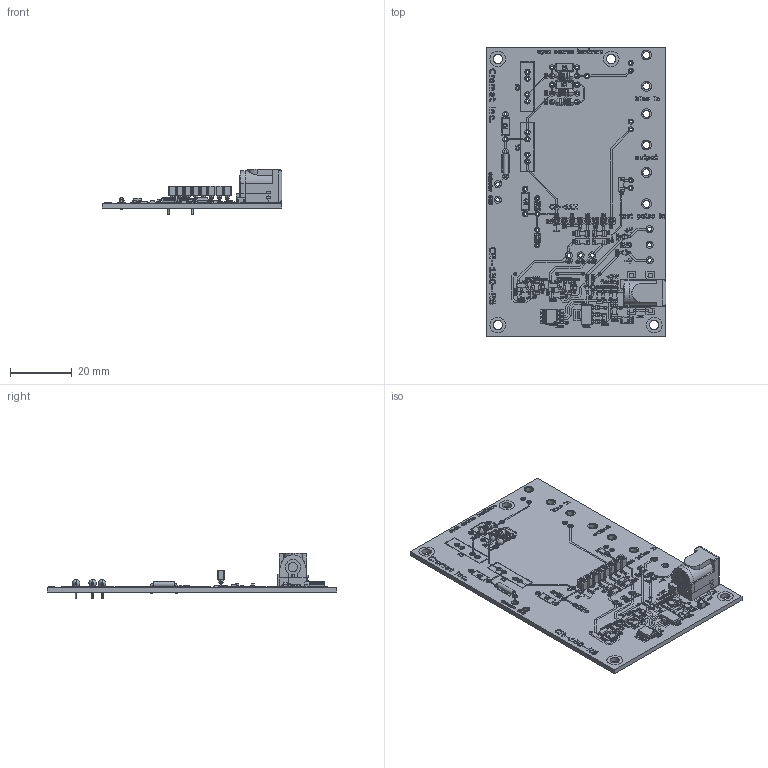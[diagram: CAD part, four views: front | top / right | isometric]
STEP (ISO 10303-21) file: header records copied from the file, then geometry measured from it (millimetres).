
FILE_DESCRIPTION(('FreeCAD Model'),'2;1');
FILE_NAME('Open CASCADE Shape Model','2022-10-15T08:47:23',('Author'),( ''),'Open CASCADE STEP processor 7.5','FreeCAD','Unknown');
FILE_SCHEMA(('AUTOMOTIVE_DESIGN { 1 0 10303 214 1 1 1 1 }'));
Length unit declared in the file: millimetre
Products named in the file (28): CR_150_R6; CR-150-R6; Board_Geoms_2100; Pcb_2100; topPads_2100; topTracks_2100; botPads_2100; botTracks_2100; botZones_2100; topSilks_dadc; Step_Models_2100; Top_2100; D102; U1; U102; R102; R101; C102; J101; R8; U101; L101; Q101; R11(wirebridge-ferrite); wirebridge; ferrite; Local_CS_2100; PCB_Sketch_2100
Assembly tree (91 placements, depth 6):
  CR_150_R6
    CR-150-R6
      Board_Geoms_2100
        Pcb_2100
        topPads_2100
        topTracks_2100
        botPads_2100
        botTracks_2100
        botZones_2100
        topSilks_dadc
      Step_Models_2100
        Top_2100
          D102  x6
          U1
          U102
          R102  x3
          R101  x7
          C102  x6
          J101
          R8  x3
          U101
          L101
          Q101  x2
          R11(wirebridge-ferrite)
            wirebridge
            ferrite
    Board_Geoms_2100
      Pcb_2100
      topPads_2100
      topTracks_2100
      botPads_2100
      botTracks_2100
      botZones_2100
      topSilks_dadc
    Step_Models_2100
      Top_2100
        D102  x6
        U1
        U102
        R102  x3
        R101  x7
        C102  x6
        J101
        R8  x3
        U101
        L101
        Q101  x2
        R11(wirebridge-ferrite)
          wirebridge
          ferrite
    Local_CS_2100
    Pcb_2100
    PCB_Sketch_2100
    topPads_2100
    topTracks_2100
    botPads_2100
    botTracks_2100
    botZones_2100
    topSilks_dadc
    Top_2100
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Bounding box: 58.42 x 93.98 x 14.73 mm (x, y, z)
Volume: 32303.5 mm3; surface area: 60635.5 mm2
Topology: 207 solids, 1794 shells, 9654 faces, 100462 edges, 113165 vertices
Faces by surface type: plane 4949, bspline 2864, cylinder 1721, sphere 64, torus 56
Full cylindrical faces by diameter (mm): 0.6 x12, 0.889 x30, 0.914 x51, 0.965 x24, 1.27 x24, 1.6 x7, 1.803 x3, 2.286 x18, 3.048 x12
Entity records: 273830 total; most frequent: CARTESIAN_POINT 71746, DIRECTION 32319, ORIENTED_EDGE 30298, EDGE_CURVE 27440, VERTEX_POINT 26371, LINE 26091, VECTOR 26091, AXIS2_PLACEMENT_3D 3114
